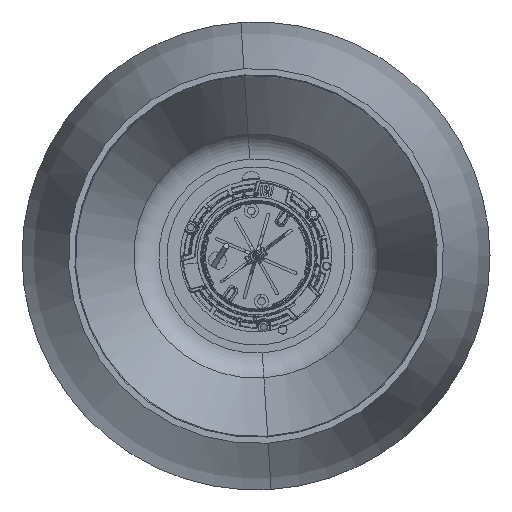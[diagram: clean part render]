
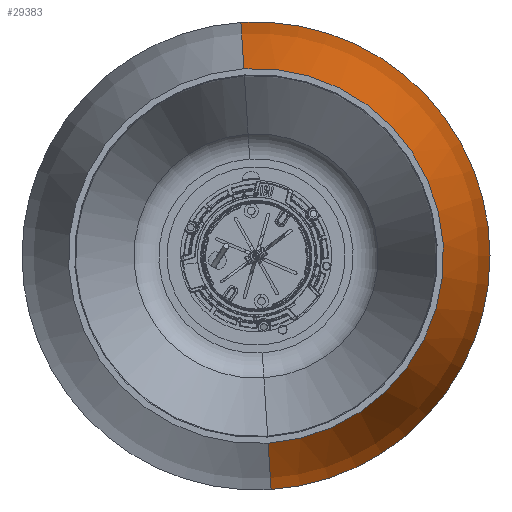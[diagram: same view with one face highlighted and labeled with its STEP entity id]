
A CAD part, front view. The second image highlights one B-rep face of the part: STEP entity #29383.
In plain terms, the highlighted toroidal (fillet/blend) face has major radius 343.829 mm and minor radius 475 mm.
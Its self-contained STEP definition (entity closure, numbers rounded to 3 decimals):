
#3492 = CARTESIAN_POINT ( 'NONE',  ( 0., -398.8, 0. ) ) ;
#3719 = VERTEX_POINT ( 'NONE', #22956 ) ;
#5006 = FACE_OUTER_BOUND ( 'NONE', #70974, .T. ) ;
#7605 = EDGE_CURVE ( 'NONE', #3719, #66732, #71362, .T. ) ;
#9510 = AXIS2_PLACEMENT_3D ( 'NONE', #3492, #61548, #32147 ) ;
#10441 = DIRECTION ( 'NONE',  ( -0.065, 0., 0.998 ) ) ;
#10758 = CIRCLE ( 'NONE', #9510, 105.137 ) ;
#10817 = TOROIDAL_SURFACE ( 'NONE', #54779, -343.829, 475. ) ;
#13742 = CARTESIAN_POINT ( 'NONE',  ( 4.647, -14.134, -71.859 ) ) ;
#22825 = DIRECTION ( 'NONE',  ( 0.065, 0., -0.998 ) ) ;
#22956 = CARTESIAN_POINT ( 'NONE',  ( -4.647, -14.134, 71.859 ) ) ;
#24352 = DIRECTION ( 'NONE',  ( 0., -1., 0. ) ) ;
#24932 = VERTEX_POINT ( 'NONE', #13742 ) ;
#24974 = AXIS2_PLACEMENT_3D ( 'NONE', #52863, #47256, #22825 ) ;
#27483 = CIRCLE ( 'NONE', #70327, 72.009 ) ;
#29383 = ADVANCED_FACE ( 'NONE', ( #5006 ), #10817, .T. ) ;
#30398 = ORIENTED_EDGE ( 'NONE', *, *, #32264, .T. ) ;
#32147 = DIRECTION ( 'NONE',  ( 0.065, 0., -0.998 ) ) ;
#32264 = EDGE_CURVE ( 'NONE', #66732, #37760, #10758, .T. ) ;
#32578 = ORIENTED_EDGE ( 'NONE', *, *, #34702, .F. ) ;
#34702 = EDGE_CURVE ( 'NONE', #24932, #37760, #70419, .T. ) ;
#37724 = ORIENTED_EDGE ( 'NONE', *, *, #49366, .T. ) ;
#37760 = VERTEX_POINT ( 'NONE', #50213 ) ;
#43539 = DIRECTION ( 'NONE',  ( -0.998, 0., -0.065 ) ) ;
#46975 = CARTESIAN_POINT ( 'NONE',  ( 0., -14.134, 0. ) ) ;
#47044 = DIRECTION ( 'NONE',  ( 0.065, 0., -0.998 ) ) ;
#47256 = DIRECTION ( 'NONE',  ( 0.998, 0., 0.065 ) ) ;
#49366 = EDGE_CURVE ( 'NONE', #24932, #3719, #27483, .T. ) ;
#50213 = CARTESIAN_POINT ( 'NONE',  ( 6.785, -398.8, -104.918 ) ) ;
#52863 = CARTESIAN_POINT ( 'NONE',  ( 22.189, -243.706, -343.113 ) ) ;
#52989 = CARTESIAN_POINT ( 'NONE',  ( 0., -243.706, 0. ) ) ;
#54091 = ORIENTED_EDGE ( 'NONE', *, *, #7605, .T. ) ;
#54779 = AXIS2_PLACEMENT_3D ( 'NONE', #52989, #24352, #47044 ) ;
#58150 = DIRECTION ( 'NONE',  ( 0.065, 0., -0.998 ) ) ;
#61548 = DIRECTION ( 'NONE',  ( 0., 1., 0. ) ) ;
#66732 = VERTEX_POINT ( 'NONE', #71821 ) ;
#67397 = CARTESIAN_POINT ( 'NONE',  ( -22.189, -243.706, 343.113 ) ) ;
#69231 = AXIS2_PLACEMENT_3D ( 'NONE', #67397, #43539, #10441 ) ;
#69324 = DIRECTION ( 'NONE',  ( 0., -1., 0. ) ) ;
#70327 = AXIS2_PLACEMENT_3D ( 'NONE', #46975, #69324, #58150 ) ;
#70419 = CIRCLE ( 'NONE', #69231, 475. ) ;
#70974 = EDGE_LOOP ( 'NONE', ( #37724, #54091, #30398, #32578 ) ) ;
#71362 = CIRCLE ( 'NONE', #24974, 475. ) ;
#71821 = CARTESIAN_POINT ( 'NONE',  ( -6.785, -398.8, 104.918 ) ) ;
